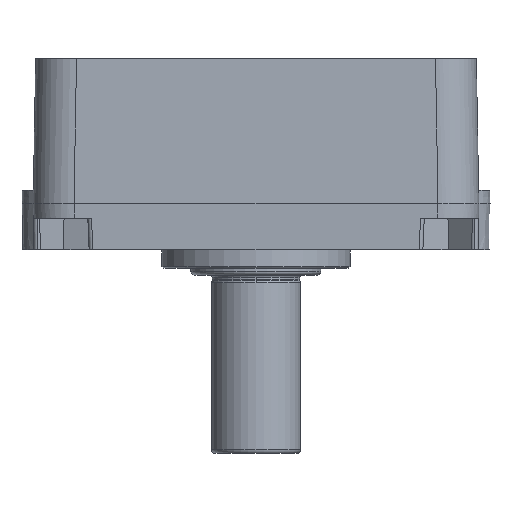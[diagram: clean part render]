
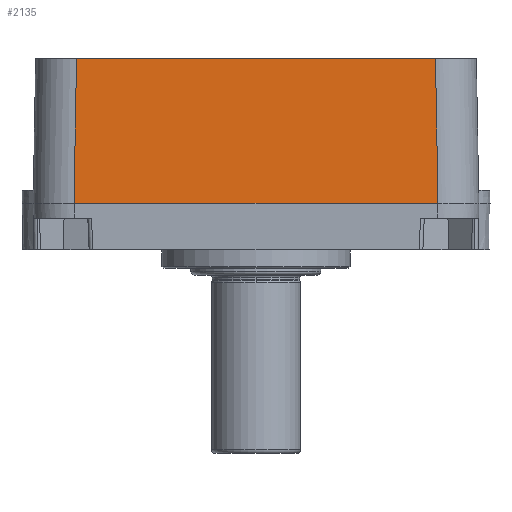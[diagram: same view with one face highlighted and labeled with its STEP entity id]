
A CAD part, front view. The second image highlights one B-rep face of the part: STEP entity #2135.
In plain terms, the highlighted planar face has unit normal (0, -1, 0.018).
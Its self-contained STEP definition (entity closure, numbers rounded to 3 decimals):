
#46 = VERTEX_POINT ( 'NONE', #2981 ) ;
#1213 = DIRECTION ( 'NONE',  ( -0.017, -0.017, -1. ) ) ;
#1323 = LINE ( 'NONE', #12371, #3270 ) ;
#1502 = ORIENTED_EDGE ( 'NONE', *, *, #14752, .T. ) ;
#2135 = ADVANCED_FACE ( 'NONE', ( #16636 ), #2499, .T. ) ;
#2308 = DIRECTION ( 'NONE',  ( -1., 0., 0. ) ) ;
#2499 = PLANE ( 'NONE',  #14452 ) ;
#2581 = LINE ( 'NONE', #10551, #6545 ) ;
#2981 = CARTESIAN_POINT ( 'NONE',  ( 49.002, -75., 14. ) ) ;
#3256 = EDGE_CURVE ( 'NONE', #12608, #46, #2581, .T. ) ;
#3258 = DIRECTION ( 'NONE',  ( -1., 0., 0. ) ) ;
#3270 = VECTOR ( 'NONE', #7617, 1000. ) ;
#3666 = EDGE_CURVE ( 'NONE', #17945, #12608, #9055, .T. ) ;
#4152 = CARTESIAN_POINT ( 'NONE',  ( 0., -75., 14. ) ) ;
#4917 = CARTESIAN_POINT ( 'NONE',  ( 0., -74.319, 53. ) ) ;
#5316 = VECTOR ( 'NONE', #3258, 1000. ) ;
#6545 = VECTOR ( 'NONE', #13630, 1000. ) ;
#7396 = CARTESIAN_POINT ( 'NONE',  ( -48.987, -74.985, 14.855 ) ) ;
#7513 = EDGE_CURVE ( 'NONE', #11520, #17945, #14297, .T. ) ;
#7617 = DIRECTION ( 'NONE',  ( -0.017, 0.017, 1. ) ) ;
#7907 = ORIENTED_EDGE ( 'NONE', *, *, #7513, .T. ) ;
#9055 = LINE ( 'NONE', #7396, #17764 ) ;
#10551 = CARTESIAN_POINT ( 'NONE',  ( 0., -75., 14. ) ) ;
#11520 = VERTEX_POINT ( 'NONE', #16150 ) ;
#12371 = CARTESIAN_POINT ( 'NONE',  ( 48.987, -74.985, 14.855 ) ) ;
#12563 = CARTESIAN_POINT ( 'NONE',  ( -49.002, -75., 14. ) ) ;
#12608 = VERTEX_POINT ( 'NONE', #12563 ) ;
#12977 = EDGE_LOOP ( 'NONE', ( #1502, #7907, #13296, #14176 ) ) ;
#13296 = ORIENTED_EDGE ( 'NONE', *, *, #3666, .T. ) ;
#13630 = DIRECTION ( 'NONE',  ( 1., 0., 0. ) ) ;
#14176 = ORIENTED_EDGE ( 'NONE', *, *, #3256, .T. ) ;
#14297 = LINE ( 'NONE', #4917, #5316 ) ;
#14405 = CARTESIAN_POINT ( 'NONE',  ( -48.321, -74.319, 53. ) ) ;
#14452 = AXIS2_PLACEMENT_3D ( 'NONE', #4152, #14909, #2308 ) ;
#14752 = EDGE_CURVE ( 'NONE', #46, #11520, #1323, .T. ) ;
#14909 = DIRECTION ( 'NONE',  ( 0., -1., 0.017 ) ) ;
#16150 = CARTESIAN_POINT ( 'NONE',  ( 48.321, -74.319, 53. ) ) ;
#16636 = FACE_OUTER_BOUND ( 'NONE', #12977, .T. ) ;
#17764 = VECTOR ( 'NONE', #1213, 1000. ) ;
#17945 = VERTEX_POINT ( 'NONE', #14405 ) ;
